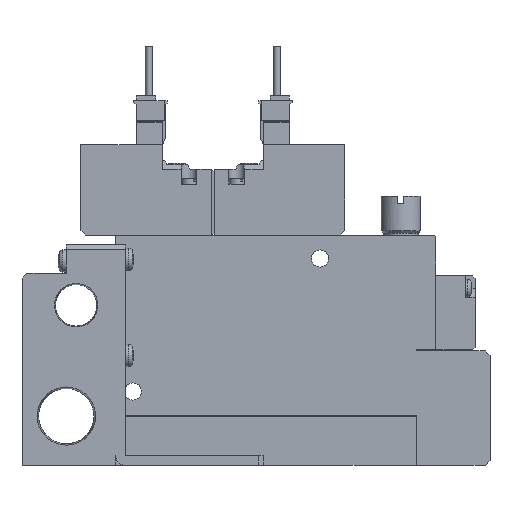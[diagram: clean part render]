
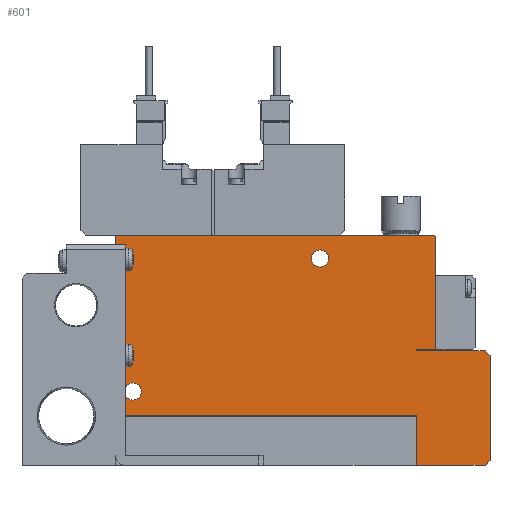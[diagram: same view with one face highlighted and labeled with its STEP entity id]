
A CAD part, top view. The second image highlights one B-rep face of the part: STEP entity #601.
In plain terms, the highlighted planar face has unit normal (0, 0, 1).
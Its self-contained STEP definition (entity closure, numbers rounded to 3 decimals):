
#601=ADVANCED_FACE('',(#1350,#1351,#1352),#1353,.F.);
#1350=FACE_OUTER_BOUND('',#2327,.T.);
#1351=FACE_BOUND('',#2328,.T.);
#1352=FACE_BOUND('',#2329,.T.);
#1353=PLANE('',#2330);
#2327=EDGE_LOOP('',(#4968,#4969,#4970,#4971,#4972,#4973,#4974,#4975,#4976,#4977,#4978,#4979,#4980,#4981));
#2328=EDGE_LOOP('',(#4982));
#2329=EDGE_LOOP('',(#4983));
#2330=AXIS2_PLACEMENT_3D('',#4984,#4985,#4986);
#4968=ORIENTED_EDGE('',*,*,#6893,.T.);
#4969=ORIENTED_EDGE('',*,*,#6855,.F.);
#4970=ORIENTED_EDGE('',*,*,#6894,.F.);
#4971=ORIENTED_EDGE('',*,*,#6895,.T.);
#4972=ORIENTED_EDGE('',*,*,#6896,.T.);
#4973=ORIENTED_EDGE('',*,*,#6897,.T.);
#4974=ORIENTED_EDGE('',*,*,#6898,.T.);
#4975=ORIENTED_EDGE('',*,*,#6899,.T.);
#4976=ORIENTED_EDGE('',*,*,#6900,.T.);
#4977=ORIENTED_EDGE('',*,*,#6901,.T.);
#4978=ORIENTED_EDGE('',*,*,#6902,.T.);
#4979=ORIENTED_EDGE('',*,*,#6881,.T.);
#4980=ORIENTED_EDGE('',*,*,#6903,.T.);
#4981=ORIENTED_EDGE('',*,*,#6904,.T.);
#4982=ORIENTED_EDGE('',*,*,#6892,.F.);
#4983=ORIENTED_EDGE('',*,*,#6905,.F.);
#4984=CARTESIAN_POINT('',(0.0,0.0,5.0));
#4985=DIRECTION('',(0.0,0.0,-1.0));
#4986=DIRECTION('',(0.0,-1.0,0.0));
#6855=EDGE_CURVE('',#8412,#8413,#8414,.T.);
#6881=EDGE_CURVE('',#8460,#8458,#8461,.T.);
#6892=EDGE_CURVE('',#8480,#8480,#8481,.T.);
#6893=EDGE_CURVE('',#8482,#8413,#8483,.T.);
#6894=EDGE_CURVE('',#8484,#8412,#8485,.T.);
#6895=EDGE_CURVE('',#8484,#8486,#8487,.T.);
#6896=EDGE_CURVE('',#8486,#8488,#8489,.T.);
#6897=EDGE_CURVE('',#8488,#8490,#8491,.T.);
#6898=EDGE_CURVE('',#8490,#8492,#8493,.T.);
#6899=EDGE_CURVE('',#8492,#8494,#8495,.T.);
#6900=EDGE_CURVE('',#8494,#8496,#8497,.T.);
#6901=EDGE_CURVE('',#8496,#8498,#8499,.T.);
#6902=EDGE_CURVE('',#8498,#8460,#8500,.T.);
#6903=EDGE_CURVE('',#8458,#8501,#8502,.T.);
#6904=EDGE_CURVE('',#8501,#8482,#8503,.T.);
#6905=EDGE_CURVE('',#8504,#8504,#8505,.T.);
#8412=VERTEX_POINT('',#10907);
#8413=VERTEX_POINT('',#10908);
#8414=LINE('',#10909,#10910);
#8458=VERTEX_POINT('',#10971);
#8460=VERTEX_POINT('',#10974);
#8461=LINE('',#10975,#10976);
#8480=VERTEX_POINT('',#10999);
#8481=CIRCLE('',#11000,1.75);
#8482=VERTEX_POINT('',#11001);
#8483=LINE('',#11002,#11003);
#8484=VERTEX_POINT('',#11004);
#8485=LINE('',#11005,#11006);
#8486=VERTEX_POINT('',#11007);
#8487=LINE('',#11008,#11009);
#8488=VERTEX_POINT('',#11010);
#8489=LINE('',#11011,#11012);
#8490=VERTEX_POINT('',#11013);
#8491=LINE('',#11014,#11015);
#8492=VERTEX_POINT('',#11016);
#8493=LINE('',#11017,#11018);
#8494=VERTEX_POINT('',#11019);
#8495=LINE('',#11020,#11021);
#8496=VERTEX_POINT('',#11022);
#8497=LINE('',#11023,#11024);
#8498=VERTEX_POINT('',#11025);
#8499=LINE('',#11026,#11027);
#8500=LINE('',#11028,#11029);
#8501=VERTEX_POINT('',#11030);
#8502=LINE('',#11031,#11032);
#8503=LINE('',#11033,#11034);
#8504=VERTEX_POINT('',#11035);
#8505=CIRCLE('',#11036,1.75);
#10907=CARTESIAN_POINT('',(61.1,10.1,5.0));
#10908=CARTESIAN_POINT('',(0.0,10.1,5.0));
#10909=CARTESIAN_POINT('',(61.1,10.1,5.0));
#10910=VECTOR('',#13074,1.0);
#10971=CARTESIAN_POINT('',(64.8,46.6,5.0));
#10974=CARTESIAN_POINT('',(65.0,46.4,5.0));
#10975=CARTESIAN_POINT('',(65.0,46.4,5.0));
#10976=VECTOR('',#13114,1.0);
#10999=CARTESIAN_POINT('',(5.25,15.0,5.0));
#11000=AXIS2_PLACEMENT_3D('',#13137,#13138,#13139);
#11001=CARTESIAN_POINT('',(0.0,46.4,5.0));
#11002=CARTESIAN_POINT('',(0.0,46.4,5.0));
#11003=VECTOR('',#13140,1.0);
#11004=CARTESIAN_POINT('',(61.1,0.0,5.0));
#11005=CARTESIAN_POINT('',(61.1,0.0,5.0));
#11006=VECTOR('',#13141,1.0);
#11007=CARTESIAN_POINT('',(75.0,0.0,5.0));
#11008=CARTESIAN_POINT('',(0.0,0.0,5.0));
#11009=VECTOR('',#13142,1.0);
#11010=CARTESIAN_POINT('',(76.0,1.0,5.0));
#11011=CARTESIAN_POINT('',(75.0,0.0,5.0));
#11012=VECTOR('',#13143,1.0);
#11013=CARTESIAN_POINT('',(76.0,22.25,5.0));
#11014=CARTESIAN_POINT('',(76.0,1.0,5.0));
#11015=VECTOR('',#13144,1.0);
#11016=CARTESIAN_POINT('',(75.0,23.25,5.0));
#11017=CARTESIAN_POINT('',(76.0,22.25,5.0));
#11018=VECTOR('',#13145,1.0);
#11019=CARTESIAN_POINT('',(61.0,23.25,5.0));
#11020=CARTESIAN_POINT('',(75.0,23.25,5.0));
#11021=VECTOR('',#13146,1.0);
#11022=CARTESIAN_POINT('',(61.0,23.5,5.0));
#11023=CARTESIAN_POINT('',(61.0,23.25,5.0));
#11024=VECTOR('',#13147,1.0);
#11025=CARTESIAN_POINT('',(65.0,23.5,5.0));
#11026=CARTESIAN_POINT('',(61.0,23.5,5.0));
#11027=VECTOR('',#13148,1.0);
#11028=CARTESIAN_POINT('',(65.0,23.5,5.0));
#11029=VECTOR('',#13149,1.0);
#11030=CARTESIAN_POINT('',(0.2,46.6,5.0));
#11031=CARTESIAN_POINT('',(64.8,46.6,5.0));
#11032=VECTOR('',#13150,1.0);
#11033=CARTESIAN_POINT('',(0.2,46.6,5.0));
#11034=VECTOR('',#13151,1.0);
#11035=CARTESIAN_POINT('',(43.25,42.0,5.0));
#11036=AXIS2_PLACEMENT_3D('',#13152,#13153,#13154);
#13074=DIRECTION('',(-1.0,0.0,0.0));
#13114=DIRECTION('',(-0.707,0.707,0.0));
#13137=CARTESIAN_POINT('',(3.5,15.0,5.0));
#13138=DIRECTION('',(0.0,0.0,1.0));
#13139=DIRECTION('',(1.0,0.0,0.0));
#13140=DIRECTION('',(0.0,-1.0,0.0));
#13141=DIRECTION('',(0.0,1.0,0.0));
#13142=DIRECTION('',(1.0,0.0,0.0));
#13143=DIRECTION('',(0.707,0.707,0.0));
#13144=DIRECTION('',(0.0,1.0,0.0));
#13145=DIRECTION('',(-0.707,0.707,0.0));
#13146=DIRECTION('',(-1.0,0.0,0.0));
#13147=DIRECTION('',(0.0,1.0,0.0));
#13148=DIRECTION('',(1.0,0.,0.0));
#13149=DIRECTION('',(0.0,1.0,0.0));
#13150=DIRECTION('',(-1.0,0.0,0.0));
#13151=DIRECTION('',(-0.707,-0.707,0.0));
#13152=CARTESIAN_POINT('',(41.5,42.0,5.0));
#13153=DIRECTION('',(0.0,0.0,1.0));
#13154=DIRECTION('',(1.0,0.0,0.0));
